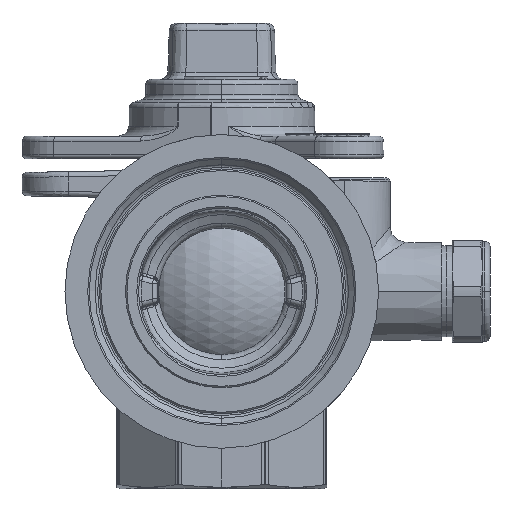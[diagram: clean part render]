
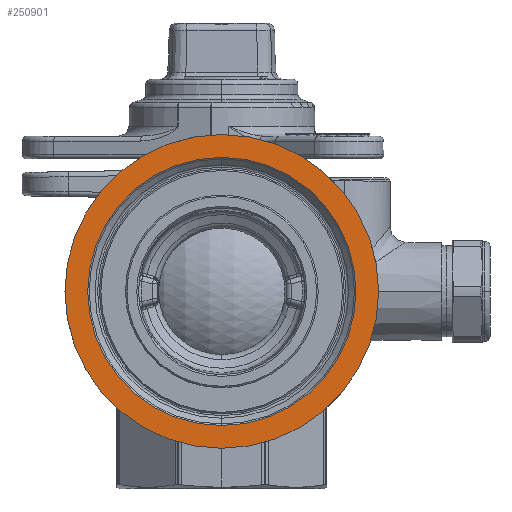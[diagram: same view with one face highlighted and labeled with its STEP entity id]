
A CAD part, left-side view. The second image highlights one B-rep face of the part: STEP entity #250901.
In plain terms, the highlighted planar face has unit normal (-1, 0, 0).
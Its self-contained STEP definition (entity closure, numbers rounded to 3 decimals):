
#242418 = CYLINDRICAL_SURFACE('',#242419,31.);
#242419 = AXIS2_PLACEMENT_3D('',#242420,#242421,#242422);
#242420 = CARTESIAN_POINT('',(-74.3,8.958,8.958));
#242421 = DIRECTION('',(1.,0.,0.));
#242422 = DIRECTION('',(0.,-1.,0.));
#250699 = CONICAL_SURFACE('',#250700,25.775,0.785);
#250700 = AXIS2_PLACEMENT_3D('',#250701,#250702,#250703);
#250701 = CARTESIAN_POINT('',(-72.575,8.958,8.958));
#250702 = DIRECTION('',(-1.,0.,0.));
#250703 = DIRECTION('',(0.,0.,1.));
#250773 = CONICAL_SURFACE('',#250774,25.775,0.785);
#250774 = AXIS2_PLACEMENT_3D('',#250775,#250776,#250777);
#250775 = CARTESIAN_POINT('',(-72.575,8.958,8.958));
#250776 = DIRECTION('',(-1.,0.,0.));
#250777 = DIRECTION('',(0.,0.,1.));
#250797 = VERTEX_POINT('',#250798);
#250798 = CARTESIAN_POINT('',(-73.3,8.958,35.458));
#250819 = EDGE_CURVE('',#250797,#250820,#250822,.T.);
#250820 = VERTEX_POINT('',#250821);
#250821 = CARTESIAN_POINT('',(-73.3,8.958,-17.542));
#250822 = SURFACE_CURVE('',#250823,(#250828,#250835),.PCURVE_S1.);
#250823 = CIRCLE('',#250824,26.5);
#250824 = AXIS2_PLACEMENT_3D('',#250825,#250826,#250827);
#250825 = CARTESIAN_POINT('',(-73.3,8.958,8.958));
#250826 = DIRECTION('',(1.,0.,0.));
#250827 = DIRECTION('',(0.,0.,1.));
#250828 = PCURVE('',#250773,#250829);
#250829 = DEFINITIONAL_REPRESENTATION('',(#250830),#250834);
#250830 = LINE('',#250831,#250832);
#250831 = CARTESIAN_POINT('',(6.283,0.725));
#250832 = VECTOR('',#250833,1.);
#250833 = DIRECTION('',(-1.,0.));
#250834 = ( GEOMETRIC_REPRESENTATION_CONTEXT(2) 
PARAMETRIC_REPRESENTATION_CONTEXT() REPRESENTATION_CONTEXT('2D SPACE',''
  ) );
#250835 = PCURVE('',#250836,#250841);
#250836 = PLANE('',#250837);
#250837 = AXIS2_PLACEMENT_3D('',#250838,#250839,#250840);
#250838 = CARTESIAN_POINT('',(-73.3,8.958,8.958));
#250839 = DIRECTION('',(-1.,0.,0.));
#250840 = DIRECTION('',(0.,0.,1.));
#250841 = DEFINITIONAL_REPRESENTATION('',(#250842),#250850);
#250842 = ( BOUNDED_CURVE() B_SPLINE_CURVE(2,(#250843,#250844,#250845,
    #250846,#250847,#250848,#250849),.UNSPECIFIED.,.T.,.F.) 
B_SPLINE_CURVE_WITH_KNOTS((1,2,2,2,2,1),(-2.094,0.,
    2.094,4.189,6.283,8.378),
.UNSPECIFIED.) CURVE() GEOMETRIC_REPRESENTATION_ITEM() 
RATIONAL_B_SPLINE_CURVE((1.,0.5,1.,0.5,1.,0.5,1.)) REPRESENTATION_ITEM(
  '') );
#250843 = CARTESIAN_POINT('',(26.5,0.));
#250844 = CARTESIAN_POINT('',(26.5,-45.899));
#250845 = CARTESIAN_POINT('',(-13.25,-22.95));
#250846 = CARTESIAN_POINT('',(-53.,0.));
#250847 = CARTESIAN_POINT('',(-13.25,22.95));
#250848 = CARTESIAN_POINT('',(26.5,45.899));
#250849 = CARTESIAN_POINT('',(26.5,0.));
#250850 = ( GEOMETRIC_REPRESENTATION_CONTEXT(2) 
PARAMETRIC_REPRESENTATION_CONTEXT() REPRESENTATION_CONTEXT('2D SPACE',''
  ) );
#250877 = EDGE_CURVE('',#250797,#250820,#250878,.T.);
#250878 = SURFACE_CURVE('',#250879,(#250884,#250891),.PCURVE_S1.);
#250879 = CIRCLE('',#250880,26.5);
#250880 = AXIS2_PLACEMENT_3D('',#250881,#250882,#250883);
#250881 = CARTESIAN_POINT('',(-73.3,8.958,8.958));
#250882 = DIRECTION('',(-1.,0.,0.));
#250883 = DIRECTION('',(0.,0.,1.));
#250884 = PCURVE('',#250699,#250885);
#250885 = DEFINITIONAL_REPRESENTATION('',(#250886),#250890);
#250886 = LINE('',#250887,#250888);
#250887 = CARTESIAN_POINT('',(0.,0.725));
#250888 = VECTOR('',#250889,1.);
#250889 = DIRECTION('',(1.,0.));
#250890 = ( GEOMETRIC_REPRESENTATION_CONTEXT(2) 
PARAMETRIC_REPRESENTATION_CONTEXT() REPRESENTATION_CONTEXT('2D SPACE',''
  ) );
#250891 = PCURVE('',#250836,#250892);
#250892 = DEFINITIONAL_REPRESENTATION('',(#250893),#250897);
#250893 = CIRCLE('',#250894,26.5);
#250894 = AXIS2_PLACEMENT_2D('',#250895,#250896);
#250895 = CARTESIAN_POINT('',(0.,0.));
#250896 = DIRECTION('',(1.,0.));
#250897 = ( GEOMETRIC_REPRESENTATION_CONTEXT(2) 
PARAMETRIC_REPRESENTATION_CONTEXT() REPRESENTATION_CONTEXT('2D SPACE',''
  ) );
#250901 = ADVANCED_FACE('',(#250902,#250957),#250836,.T.);
#250902 = FACE_BOUND('',#250903,.T.);
#250903 = EDGE_LOOP('',(#250904,#250930));
#250904 = ORIENTED_EDGE('',*,*,#250905,.T.);
#250905 = EDGE_CURVE('',#250906,#250908,#250910,.T.);
#250906 = VERTEX_POINT('',#250907);
#250907 = CARTESIAN_POINT('',(-73.3,-22.042,8.958));
#250908 = VERTEX_POINT('',#250909);
#250909 = CARTESIAN_POINT('',(-73.3,39.958,8.958));
#250910 = SURFACE_CURVE('',#250911,(#250916,#250923),.PCURVE_S1.);
#250911 = CIRCLE('',#250912,31.);
#250912 = AXIS2_PLACEMENT_3D('',#250913,#250914,#250915);
#250913 = CARTESIAN_POINT('',(-73.3,8.958,8.958));
#250914 = DIRECTION('',(-1.,0.,0.));
#250915 = DIRECTION('',(-0.,-1.,0.));
#250916 = PCURVE('',#250836,#250917);
#250917 = DEFINITIONAL_REPRESENTATION('',(#250918),#250922);
#250918 = CIRCLE('',#250919,31.);
#250919 = AXIS2_PLACEMENT_2D('',#250920,#250921);
#250920 = CARTESIAN_POINT('',(0.,0.));
#250921 = DIRECTION('',(0.,-1.));
#250922 = ( GEOMETRIC_REPRESENTATION_CONTEXT(2) 
PARAMETRIC_REPRESENTATION_CONTEXT() REPRESENTATION_CONTEXT('2D SPACE',''
  ) );
#250923 = PCURVE('',#242418,#250924);
#250924 = DEFINITIONAL_REPRESENTATION('',(#250925),#250929);
#250925 = LINE('',#250926,#250927);
#250926 = CARTESIAN_POINT('',(6.283,1.));
#250927 = VECTOR('',#250928,1.);
#250928 = DIRECTION('',(-1.,0.));
#250929 = ( GEOMETRIC_REPRESENTATION_CONTEXT(2) 
PARAMETRIC_REPRESENTATION_CONTEXT() REPRESENTATION_CONTEXT('2D SPACE',''
  ) );
#250930 = ORIENTED_EDGE('',*,*,#250931,.T.);
#250931 = EDGE_CURVE('',#250908,#250906,#250932,.T.);
#250932 = SURFACE_CURVE('',#250933,(#250938,#250945),.PCURVE_S1.);
#250933 = CIRCLE('',#250934,31.);
#250934 = AXIS2_PLACEMENT_3D('',#250935,#250936,#250937);
#250935 = CARTESIAN_POINT('',(-73.3,8.958,8.958));
#250936 = DIRECTION('',(-1.,0.,0.));
#250937 = DIRECTION('',(0.,1.,0.));
#250938 = PCURVE('',#250836,#250939);
#250939 = DEFINITIONAL_REPRESENTATION('',(#250940),#250944);
#250940 = CIRCLE('',#250941,31.);
#250941 = AXIS2_PLACEMENT_2D('',#250942,#250943);
#250942 = CARTESIAN_POINT('',(0.,0.));
#250943 = DIRECTION('',(0.,1.));
#250944 = ( GEOMETRIC_REPRESENTATION_CONTEXT(2) 
PARAMETRIC_REPRESENTATION_CONTEXT() REPRESENTATION_CONTEXT('2D SPACE',''
  ) );
#250945 = PCURVE('',#250946,#250951);
#250946 = CYLINDRICAL_SURFACE('',#250947,31.);
#250947 = AXIS2_PLACEMENT_3D('',#250948,#250949,#250950);
#250948 = CARTESIAN_POINT('',(-74.3,8.958,8.958));
#250949 = DIRECTION('',(1.,0.,0.));
#250950 = DIRECTION('',(0.,-1.,0.));
#250951 = DEFINITIONAL_REPRESENTATION('',(#250952),#250956);
#250952 = LINE('',#250953,#250954);
#250953 = CARTESIAN_POINT('',(3.142,1.));
#250954 = VECTOR('',#250955,1.);
#250955 = DIRECTION('',(-1.,0.));
#250956 = ( GEOMETRIC_REPRESENTATION_CONTEXT(2) 
PARAMETRIC_REPRESENTATION_CONTEXT() REPRESENTATION_CONTEXT('2D SPACE',''
  ) );
#250957 = FACE_BOUND('',#250958,.T.);
#250958 = EDGE_LOOP('',(#250959,#250960));
#250959 = ORIENTED_EDGE('',*,*,#250819,.T.);
#250960 = ORIENTED_EDGE('',*,*,#250877,.F.);
